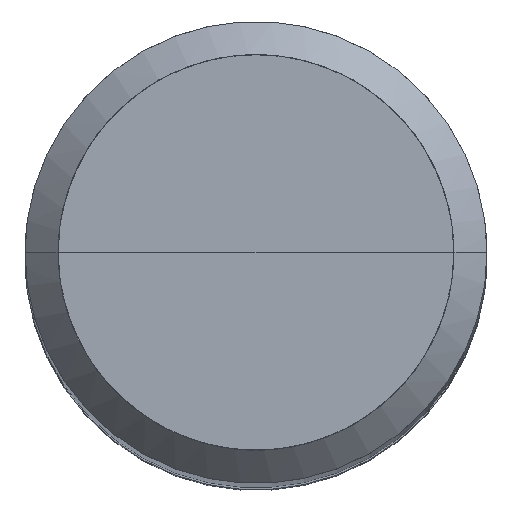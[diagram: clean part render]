
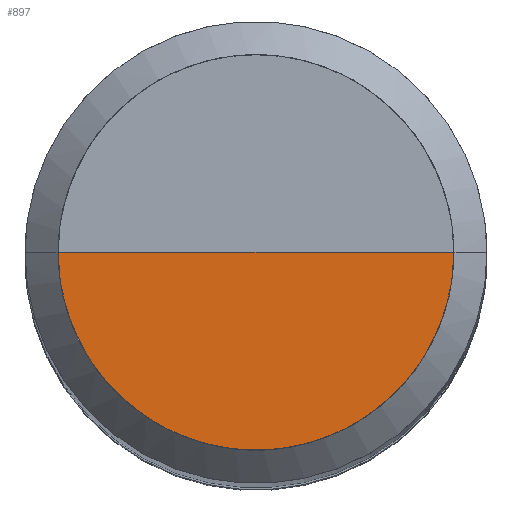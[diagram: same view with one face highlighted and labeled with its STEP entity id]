
A CAD part, top view. The second image highlights one B-rep face of the part: STEP entity #897.
In plain terms, the highlighted free-form (B-spline) face has degree [1, 2] with [2, 5] control points.
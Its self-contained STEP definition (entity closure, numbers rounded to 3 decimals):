
#500=CARTESIAN_POINT('',(6.0,0.0,73.134));
#504=CARTESIAN_POINT('',(-6.0,0.0,73.134));
#505=CARTESIAN_POINT('',(0.0,0.0,73.134));
#518=CARTESIAN_POINT('',(-6.0,-6.0,73.134));
#519=CARTESIAN_POINT('',(0.0,-6.0,73.134));
#520=CARTESIAN_POINT('',(6.0,-6.0,73.134));
#882=(
BOUNDED_SURFACE()
B_SPLINE_SURFACE(1,2,(
(#504,#518,#519,#520,#500),
(#505,#505,#505,#505,#505)
), .UNSPECIFIED.,.F.,.F.,.F.)
B_SPLINE_SURFACE_WITH_KNOTS((2,2),(3,2,3),(
0.0,1.0),(
0.0,0.5,1.0), .UNSPECIFIED.)
GEOMETRIC_REPRESENTATION_ITEM()
RATIONAL_B_SPLINE_SURFACE(((1.0,0.707,1.0,0.707,1.0),
(1.0,0.707,1.0,0.707,1.0)
))
REPRESENTATION_ITEM('')
SURFACE()
);
#883=(
BOUNDED_CURVE()
B_SPLINE_CURVE(2,(#500,#520,#519,#518,#504),.UNSPECIFIED.,.F.,.F.)
B_SPLINE_CURVE_WITH_KNOTS((3,2,3),
(0.0,0.5,1.0),.UNSPECIFIED.)
CURVE()
GEOMETRIC_REPRESENTATION_ITEM()
RATIONAL_B_SPLINE_CURVE((1.0,0.707,1.0,0.707,1.0))
REPRESENTATION_ITEM('')
);
#884=(
BOUNDED_CURVE()
B_SPLINE_CURVE(1,(#504,#505),.UNSPECIFIED.,.F.,.F.)
B_SPLINE_CURVE_WITH_KNOTS((2,2),
(0.0,1.0),.UNSPECIFIED.)
CURVE()
GEOMETRIC_REPRESENTATION_ITEM()
RATIONAL_B_SPLINE_CURVE((1.0,1.0))
REPRESENTATION_ITEM('')
);
#885=(
BOUNDED_CURVE()
B_SPLINE_CURVE(1,(#505,#500),.UNSPECIFIED.,.F.,.F.)
B_SPLINE_CURVE_WITH_KNOTS((2,2),
(0.0,1.0),.UNSPECIFIED.)
CURVE()
GEOMETRIC_REPRESENTATION_ITEM()
RATIONAL_B_SPLINE_CURVE((1.0,1.0))
REPRESENTATION_ITEM('')
);
#886=VERTEX_POINT('',#500);
#887=VERTEX_POINT('',#504);
#888=VERTEX_POINT('',#505);
#889=EDGE_CURVE('',#886,#887,#883,.T.);
#890=EDGE_CURVE('',#887,#888,#884,.T.);
#891=EDGE_CURVE('',#888,#886,#885,.T.);
#892=ORIENTED_EDGE('',*,*,#889,.T.);
#893=ORIENTED_EDGE('',*,*,#890,.T.);
#894=ORIENTED_EDGE('',*,*,#891,.T.);
#895=EDGE_LOOP('',(#892,#893,#894));
#896=FACE_OUTER_BOUND('',#895,.T.);
#897=ADVANCED_FACE('',(#896),#882,.T.);
